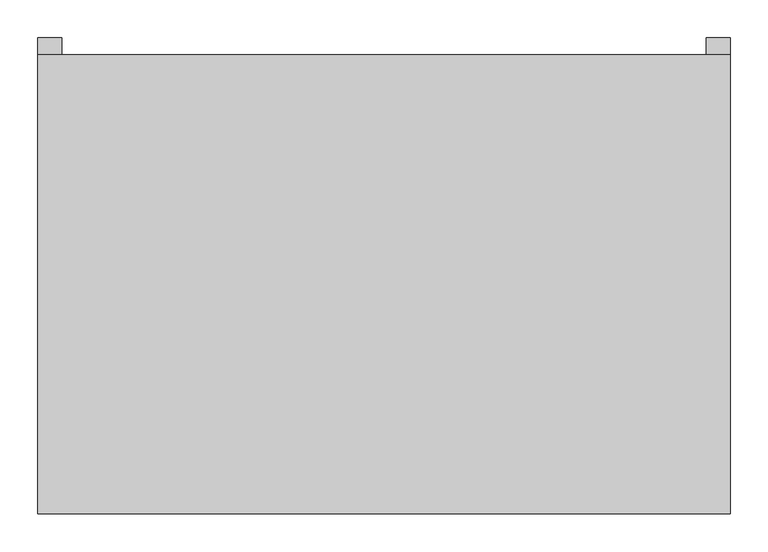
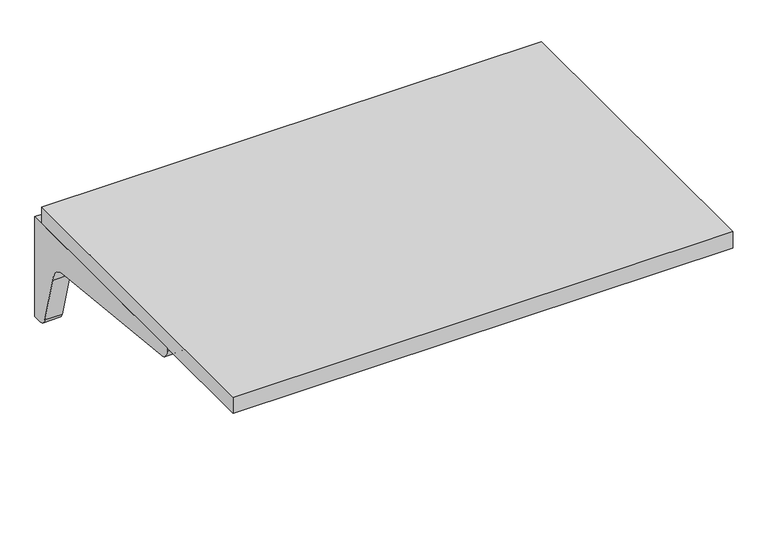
"""IFC4 building model written with IfcOpenShell, lengths in millimetres: furniture geometry."""

from ifc_helpers import new_model, si_unit, point, frame, frame_2d, origin, place, context, project, spatial, polyline, circle_curve, trimmed, segment, composite_curve, outline, extrude, source, transform, mapped, element, save


def furniture_bbcc936f(model_context):
    return source(origin(), model_context, "Body", "SweptSolid", [
        extrude(outline(composite_curve([segment(polyline([(314.325, 704.85), (314.325, 511.175), (301.625, 511.175)]), True, "CONTINUOUS"), segment(trimmed(circle_curve(frame_2d((299.3081081, 528.3371622)), 17.3178462), [point((301.625, 511.175))], [point((282.575, 523.875))], False, "CARTESIAN"), True, "CONTINUOUS"), segment(polyline([(282.575, 523.875), (257.175, 615.95)]), True, "CONTINUOUS"), segment(trimmed(circle_curve(frame_2d((221.8170455, 612.3420455)), 35.5415572), [point((257.175, 615.95))], [point((225.425, 647.7))], True, "CARTESIAN"), True, "CONTINUOUS"), segment(polyline([(225.425, 647.7), (-85.725, 679.45)]), True, "CONTINUOUS"), segment(trimmed(circle_curve(frame_2d((-85.725, 698.5)), 19.05), [point((-85.725, 679.45))], [point((-104.775, 698.5))], False, "CARTESIAN"), True, "CONTINUOUS"), segment(polyline([(-104.775, 698.5), (-104.775, 704.85), (314.325, 704.85)]), True, "CONTINUOUS")], self_intersect=False)), frame((425.45, 0.0, 0.0), z_axis=(1.0, 0.0, 0.0), x_axis=(0.0, 1.0, 0.0)), (0.0, 0.0, 1.0), 31.75),
        extrude(outline(composite_curve([segment(polyline([(314.325, 704.85), (314.325, 511.175), (301.625, 511.175)]), True, "CONTINUOUS"), segment(trimmed(circle_curve(frame_2d((299.3081081, 528.3371622)), 17.3178462), [point((301.625, 511.175))], [point((282.575, 523.875))], False, "CARTESIAN"), True, "CONTINUOUS"), segment(polyline([(282.575, 523.875), (257.175, 615.95)]), True, "CONTINUOUS"), segment(trimmed(circle_curve(frame_2d((221.8170455, 612.3420455)), 35.5415572), [point((257.175, 615.95))], [point((225.425, 647.7))], True, "CARTESIAN"), True, "CONTINUOUS"), segment(polyline([(225.425, 647.7), (-85.725, 679.45)]), True, "CONTINUOUS"), segment(trimmed(circle_curve(frame_2d((-85.725, 698.5)), 19.05), [point((-85.725, 679.45))], [point((-104.775, 698.5))], False, "CARTESIAN"), True, "CONTINUOUS"), segment(polyline([(-104.775, 698.5), (-104.775, 704.85), (314.325, 704.85)]), True, "CONTINUOUS")], self_intersect=False)), frame((-457.2, 0.0, 0.0), z_axis=(1.0, 0.0, 0.0), x_axis=(0.0, 1.0, 0.0)), (0.0, 0.0, 1.0), 31.75),
        extrude(outline(polyline([(-457.2, 292.1), (457.2, 292.1), (457.2, -314.325), (-457.2, -314.325), (-457.2, 292.1)])), frame((0.0, 0.0, 704.85), z_axis=(0.0, 0.0, 1.0), x_axis=(1.0, 0.0, 0.0)), (0.0, 0.0, 1.0), 31.75),
    ])


if __name__ == "__main__":
    model = new_model("IFC4")
    model_context = context("Model", 3, world=origin())
    ifc_project = project(units=[si_unit("LENGTHUNIT", "METRE", prefix="MILLI")], contexts=[model_context])
    site = spatial("IfcSite", under=ifc_project)
    building = spatial("IfcBuilding", under=site)
    placement = place(None, origin())
    furniture_shape = furniture_bbcc936f(model_context)
    element("IfcFurniture", 1, ObjectType="HermanMiller_ActionOffice_A2310_Sq-EdgeRectangularWorkSurface : 24\"D x 36\"W", at=placement, inside=building, context=model_context, shape_type="MappedRepresentation", body=[
        mapped(furniture_shape, transform((0.0, 0.0, 0.0), x_axis=(1.0, 0.0, 0.0), y_axis=(0.0, 1.0, 0.0), z_axis=(0.0, 0.0, 1.0))),
    ])
    save(model, "model.ifc")
